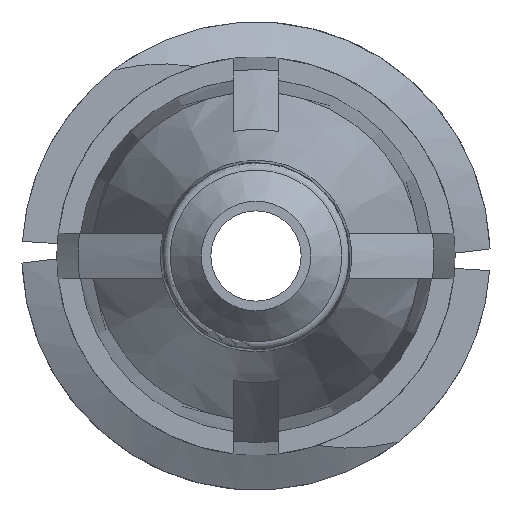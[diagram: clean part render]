
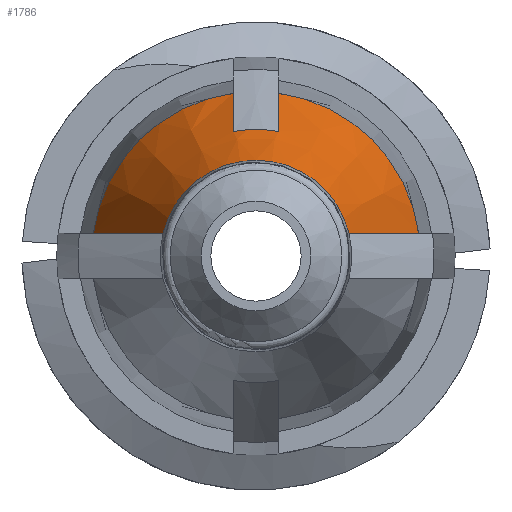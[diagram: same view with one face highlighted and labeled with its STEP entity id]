
A CAD part, front view. The second image highlights one B-rep face of the part: STEP entity #1786.
In plain terms, the highlighted conical face has half-angle 20 degrees and reference radius 2.745 mm.
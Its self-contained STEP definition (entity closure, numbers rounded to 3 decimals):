
#3 = ORIENTED_EDGE ( 'NONE', *, *, #1434, .T. ) ;
#60 = B_SPLINE_CURVE_WITH_KNOTS ( 'NONE', 3,
 ( #1880, #572, #2014, #722 ),
 .UNSPECIFIED., .F., .F.,
 ( 4, 4 ),
 ( 0.002, 0.004 ),
 .UNSPECIFIED. ) ;
#181 = EDGE_CURVE ( 'NONE', #1788, #1463, #1874, .T. ) ;
#203 = ORIENTED_EDGE ( 'NONE', *, *, #269, .T. ) ;
#222 = DIRECTION ( 'NONE',  ( 0., 1., 0. ) ) ;
#227 = CARTESIAN_POINT ( 'NONE',  ( 0.381, -10.312, 2.719 ) ) ;
#231 = CARTESIAN_POINT ( 'NONE',  ( 0., -10.312, 0. ) ) ;
#233 = CARTESIAN_POINT ( 'NONE',  ( -1.554, -13.458, 0.381 ) ) ;
#269 = EDGE_CURVE ( 'NONE', #636, #1165, #567, .T. ) ;
#323 = CARTESIAN_POINT ( 'NONE',  ( -2.719, -10.312, 0.381 ) ) ;
#348 = B_SPLINE_CURVE_WITH_KNOTS ( 'NONE', 3,
 ( #888, #2019, #878, #1326 ),
 .UNSPECIFIED., .F., .F.,
 ( 4, 4 ),
 ( 0.003, 0.007 ),
 .UNSPECIFIED. ) ;
#352 = CARTESIAN_POINT ( 'NONE',  ( 0.381, -12.038, 2.082 ) ) ;
#392 = AXIS2_PLACEMENT_3D ( 'NONE', #1078, #431, #588 ) ;
#394 = ORIENTED_EDGE ( 'NONE', *, *, #1564, .F. ) ;
#431 = DIRECTION ( 'NONE',  ( 0., -1., 0. ) ) ;
#513 = CARTESIAN_POINT ( 'NONE',  ( 0., -10.312, 0. ) ) ;
#522 = DIRECTION ( 'NONE',  ( 0., 1., 0. ) ) ;
#545 = DIRECTION ( 'NONE',  ( 1., 0., 0. ) ) ;
#567 = B_SPLINE_CURVE_WITH_KNOTS ( 'NONE', 3,
 ( #323, #660, #649, #1297 ),
 .UNSPECIFIED., .F., .F.,
 ( 4, 4 ),
 ( 0.003, 0.007 ),
 .UNSPECIFIED. ) ;
#572 = CARTESIAN_POINT ( 'NONE',  ( -0.381, -11.463, 2.295 ) ) ;
#588 = DIRECTION ( 'NONE',  ( -1., 0., 0. ) ) ;
#636 = VERTEX_POINT ( 'NONE', #798 ) ;
#649 = CARTESIAN_POINT ( 'NONE',  ( -1.947, -12.411, 0.381 ) ) ;
#660 = CARTESIAN_POINT ( 'NONE',  ( -2.333, -11.362, 0.381 ) ) ;
#720 = DIRECTION ( 'NONE',  ( 1., 0., 0. ) ) ;
#722 = CARTESIAN_POINT ( 'NONE',  ( -0.381, -10.312, 2.719 ) ) ;
#727 = ORIENTED_EDGE ( 'NONE', *, *, #1189, .T. ) ;
#767 = CIRCLE ( 'NONE', #1740, 2.745 ) ;
#798 = CARTESIAN_POINT ( 'NONE',  ( -2.719, -10.312, 0.381 ) ) ;
#854 = AXIS2_PLACEMENT_3D ( 'NONE', #1226, #2035, #545 ) ;
#878 = CARTESIAN_POINT ( 'NONE',  ( 1.947, -12.411, 0.381 ) ) ;
#888 = CARTESIAN_POINT ( 'NONE',  ( 2.719, -10.312, 0.381 ) ) ;
#891 = CARTESIAN_POINT ( 'NONE',  ( 0., -10.312, 0. ) ) ;
#939 = CONICAL_SURFACE ( 'NONE', #2082, 2.745, 0.349 ) ;
#954 = VERTEX_POINT ( 'NONE', #2009 ) ;
#974 = EDGE_LOOP ( 'NONE', ( #1228, #1412, #3, #1544, #727, #394, #203, #1170 ) ) ;
#989 = CARTESIAN_POINT ( 'NONE',  ( 0.381, -12.038, 2.082 ) ) ;
#997 = CARTESIAN_POINT ( 'NONE',  ( 0.381, -11.463, 2.295 ) ) ;
#1060 = EDGE_CURVE ( 'NONE', #1859, #1258, #1222, .T. ) ;
#1078 = CARTESIAN_POINT ( 'NONE',  ( 0., -12.038, 0. ) ) ;
#1134 = CARTESIAN_POINT ( 'NONE',  ( 0.381, -10.888, 2.507 ) ) ;
#1165 = VERTEX_POINT ( 'NONE', #233 ) ;
#1170 = ORIENTED_EDGE ( 'NONE', *, *, #1231, .T. ) ;
#1189 = EDGE_CURVE ( 'NONE', #1463, #1675, #60, .T. ) ;
#1222 = CIRCLE ( 'NONE', #1968, 2.745 ) ;
#1226 = CARTESIAN_POINT ( 'NONE',  ( 0., -13.458, 0. ) ) ;
#1228 = ORIENTED_EDGE ( 'NONE', *, *, #1857, .F. ) ;
#1231 = EDGE_CURVE ( 'NONE', #1165, #954, #1939, .T. ) ;
#1258 = VERTEX_POINT ( 'NONE', #1671 ) ;
#1282 = FACE_OUTER_BOUND ( 'NONE', #974, .T. ) ;
#1297 = CARTESIAN_POINT ( 'NONE',  ( -1.554, -13.458, 0.381 ) ) ;
#1326 = CARTESIAN_POINT ( 'NONE',  ( 1.554, -13.458, 0.381 ) ) ;
#1336 = DIRECTION ( 'NONE',  ( 0., 1., 0. ) ) ;
#1412 = ORIENTED_EDGE ( 'NONE', *, *, #1060, .F. ) ;
#1434 = EDGE_CURVE ( 'NONE', #1859, #1788, #1677, .T. ) ;
#1449 = CARTESIAN_POINT ( 'NONE',  ( -0.381, -12.038, 2.082 ) ) ;
#1463 = VERTEX_POINT ( 'NONE', #1449 ) ;
#1544 = ORIENTED_EDGE ( 'NONE', *, *, #181, .T. ) ;
#1564 = EDGE_CURVE ( 'NONE', #636, #1675, #767, .T. ) ;
#1671 = CARTESIAN_POINT ( 'NONE',  ( 2.719, -10.312, 0.381 ) ) ;
#1675 = VERTEX_POINT ( 'NONE', #2073 ) ;
#1677 = B_SPLINE_CURVE_WITH_KNOTS ( 'NONE', 3,
 ( #1977, #1134, #997, #989 ),
 .UNSPECIFIED., .F., .F.,
 ( 4, 4 ),
 ( 0.003, 0.005 ),
 .UNSPECIFIED. ) ;
#1740 = AXIS2_PLACEMENT_3D ( 'NONE', #891, #1336, #2010 ) ;
#1786 = ADVANCED_FACE ( 'NONE', ( #1282 ), #939, .T. ) ;
#1788 = VERTEX_POINT ( 'NONE', #352 ) ;
#1857 = EDGE_CURVE ( 'NONE', #1258, #954, #348, .T. ) ;
#1859 = VERTEX_POINT ( 'NONE', #227 ) ;
#1874 = CIRCLE ( 'NONE', #392, 2.117 ) ;
#1880 = CARTESIAN_POINT ( 'NONE',  ( -0.381, -12.038, 2.082 ) ) ;
#1937 = DIRECTION ( 'NONE',  ( 1., 0., 0. ) ) ;
#1939 = CIRCLE ( 'NONE', #854, 1.6 ) ;
#1968 = AXIS2_PLACEMENT_3D ( 'NONE', #231, #222, #720 ) ;
#1977 = CARTESIAN_POINT ( 'NONE',  ( 0.381, -10.312, 2.719 ) ) ;
#2009 = CARTESIAN_POINT ( 'NONE',  ( 1.554, -13.458, 0.381 ) ) ;
#2010 = DIRECTION ( 'NONE',  ( 1., 0., 0. ) ) ;
#2014 = CARTESIAN_POINT ( 'NONE',  ( -0.381, -10.888, 2.507 ) ) ;
#2019 = CARTESIAN_POINT ( 'NONE',  ( 2.333, -11.362, 0.381 ) ) ;
#2035 = DIRECTION ( 'NONE',  ( 0., 1., 0. ) ) ;
#2073 = CARTESIAN_POINT ( 'NONE',  ( -0.381, -10.312, 2.719 ) ) ;
#2082 = AXIS2_PLACEMENT_3D ( 'NONE', #513, #522, #1937 ) ;
